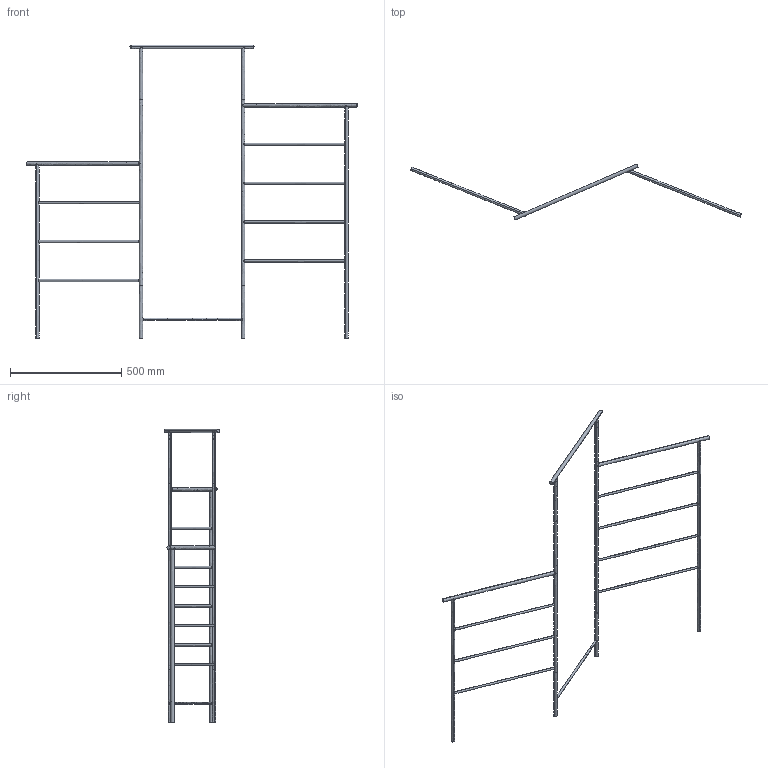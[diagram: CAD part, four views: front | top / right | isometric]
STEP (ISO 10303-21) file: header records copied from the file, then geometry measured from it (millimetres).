
FILE_DESCRIPTION(/* description */ (''),/* implementation_level */ '2;1');
FILE_NAME(/* name */ 'D34TZD~5',/* time_stamp */ '2018-07-23T11:16:46+02:00',/* author */ (''),/* organization */ (''),/* preprocessor_version */ 'ST-DEVELOPER v15',/* originating_system */ '',/* authorisation */ '');
FILE_SCHEMA (('AUTOMOTIVE_DESIGN'));
Length unit declared in the file: millimetre
Products named in the file (1): Document
Bounding box: 1486.99 x 251.48 x 1321.42 mm (x, y, z)
Volume: 1536865.1 mm3; surface area: 591261.8 mm2
Topology: 6 solids, 8 shells, 142 faces, 354 edges, 234 vertices
Faces by surface type: bspline 142
Entity records: 24008 total; most frequent: CARTESIAN_POINT 19524, B_SPLINE_CURVE_WITH_KNOTS 846, ORIENTED_EDGE 702, PCURVE 702, DEFINITIONAL_REPRESENTATION 702, SURFACE_CURVE 354, EDGE_CURVE 354, VERTEX_POINT 234
